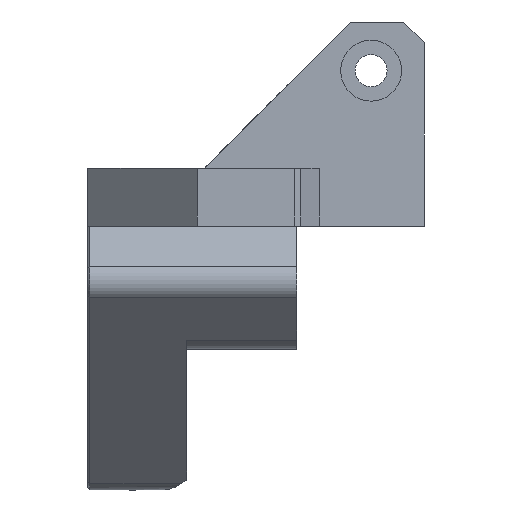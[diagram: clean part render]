
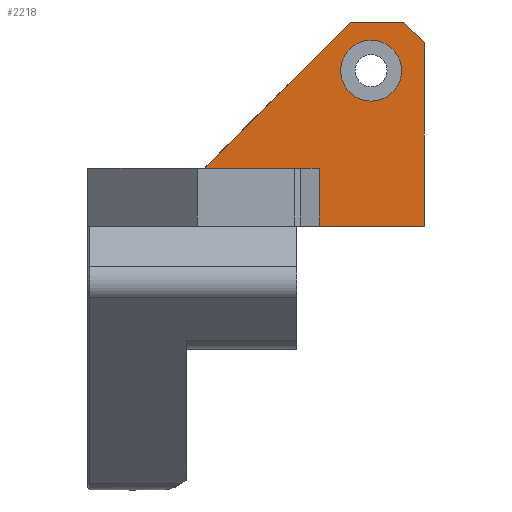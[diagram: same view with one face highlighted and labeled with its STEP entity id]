
A CAD part, left-side view. The second image highlights one B-rep face of the part: STEP entity #2218.
In plain terms, the highlighted planar face has unit normal (-1, 0, 0).
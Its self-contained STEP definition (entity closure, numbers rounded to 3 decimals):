
#79=FACE_BOUND('',#800,.T.);
#137=CIRCLE('',#2376,3.);
#255=LINE('',#4194,#445);
#268=LINE('',#4269,#458);
#276=LINE('',#4284,#466);
#283=LINE('',#4299,#473);
#285=LINE('',#4302,#475);
#287=LINE('',#4308,#477);
#288=LINE('',#4309,#478);
#289=LINE('',#4310,#479);
#290=LINE('',#4312,#480);
#291=LINE('',#4313,#481);
#445=VECTOR('',#2724,10.);
#458=VECTOR('',#2745,10.);
#466=VECTOR('',#2757,10.);
#473=VECTOR('',#2772,10.);
#475=VECTOR('',#2776,10.);
#477=VECTOR('',#2782,10.);
#478=VECTOR('',#2783,10.);
#479=VECTOR('',#2784,10.);
#480=VECTOR('',#2785,10.);
#481=VECTOR('',#2786,10.);
#569=PLANE('',#2375);
#660=FACE_OUTER_BOUND('',#799,.T.);
#799=EDGE_LOOP('',(#1884,#1885,#1886,#1887,#1888,#1889,#1890,#1891,#1892,
#1893));
#800=EDGE_LOOP('',(#1894));
#1082=VERTEX_POINT('',#4191);
#1083=VERTEX_POINT('',#4193);
#1097=VERTEX_POINT('',#4266);
#1098=VERTEX_POINT('',#4268);
#1102=VERTEX_POINT('',#4280);
#1103=VERTEX_POINT('',#4282);
#1106=VERTEX_POINT('',#4296);
#1107=VERTEX_POINT('',#4298);
#1109=VERTEX_POINT('',#4307);
#1110=VERTEX_POINT('',#4311);
#1111=VERTEX_POINT('',#4314);
#1355=EDGE_CURVE('',#1082,#1083,#255,.T.);
#1372=EDGE_CURVE('',#1098,#1097,#268,.T.);
#1380=EDGE_CURVE('',#1103,#1102,#276,.T.);
#1387=EDGE_CURVE('',#1106,#1107,#283,.T.);
#1389=EDGE_CURVE('',#1097,#1107,#285,.T.);
#1392=EDGE_CURVE('',#1106,#1109,#287,.F.);
#1393=EDGE_CURVE('',#1109,#1083,#288,.T.);
#1394=EDGE_CURVE('',#1102,#1082,#289,.T.);
#1395=EDGE_CURVE('',#1103,#1110,#290,.T.);
#1396=EDGE_CURVE('',#1110,#1098,#291,.T.);
#1397=EDGE_CURVE('',#1111,#1111,#137,.T.);
#1884=ORIENTED_EDGE('',*,*,#1387,.F.);
#1885=ORIENTED_EDGE('',*,*,#1392,.T.);
#1886=ORIENTED_EDGE('',*,*,#1393,.T.);
#1887=ORIENTED_EDGE('',*,*,#1355,.F.);
#1888=ORIENTED_EDGE('',*,*,#1394,.F.);
#1889=ORIENTED_EDGE('',*,*,#1380,.F.);
#1890=ORIENTED_EDGE('',*,*,#1395,.T.);
#1891=ORIENTED_EDGE('',*,*,#1396,.T.);
#1892=ORIENTED_EDGE('',*,*,#1372,.T.);
#1893=ORIENTED_EDGE('',*,*,#1389,.T.);
#1894=ORIENTED_EDGE('',*,*,#1397,.T.);
#2218=ADVANCED_FACE('',(#660,#79),#569,.T.);
#2375=AXIS2_PLACEMENT_3D('',#4306,#2780,#2781);
#2376=AXIS2_PLACEMENT_3D('',#4315,#2787,#2788);
#2724=DIRECTION('',(0.,1.,0.));
#2745=DIRECTION('',(0.,0.,1.));
#2757=DIRECTION('',(0.,1.,0.));
#2772=DIRECTION('',(0.,-0.707,-0.707));
#2776=DIRECTION('',(0.,0.,1.));
#2780=DIRECTION('center_axis',(-1.,0.,
0.));
#2781=DIRECTION('ref_axis',(0.,-1.,0.));
#2782=DIRECTION('',(0.,-1.,0.));
#2783=DIRECTION('',(0.,0.707,-0.707));
#2784=DIRECTION('',(0.,0.,1.));
#2785=DIRECTION('',(0.,-1.,0.));
#2786=DIRECTION('',(0.,-1.,0.));
#2787=DIRECTION('center_axis',(1.,0.,0.));
#2788=DIRECTION('ref_axis',(0.,-1.,0.));
#4191=CARTESIAN_POINT('',(7.216,29.373,29.18));
#4193=CARTESIAN_POINT('',(7.216,40.705,29.18));
#4194=CARTESIAN_POINT('',(7.216,35.451,29.18));
#4266=CARTESIAN_POINT('',(7.216,19.054,29.18));
#4268=CARTESIAN_POINT('',(7.216,19.054,23.48));
#4269=CARTESIAN_POINT('',(7.216,19.054,26.33));
#4280=CARTESIAN_POINT('',(7.216,29.373,23.48));
#4282=CARTESIAN_POINT('',(7.216,28.705,23.48));
#4284=CARTESIAN_POINT('',(7.216,28.705,23.48));
#4296=CARTESIAN_POINT('',(7.216,21.054,43.58));
#4298=CARTESIAN_POINT('',(7.216,19.054,41.58));
#4299=CARTESIAN_POINT('',(7.216,18.867,41.392));
#4302=CARTESIAN_POINT('',(7.216,19.054,29.18));
#4306=CARTESIAN_POINT('Origin',(7.216,28.705,29.18));
#4307=CARTESIAN_POINT('',(7.216,26.305,43.58));
#4308=CARTESIAN_POINT('',(7.216,26.292,43.58));
#4309=CARTESIAN_POINT('',(7.216,34.705,35.18));
#4310=CARTESIAN_POINT('',(7.216,29.373,26.33));
#4311=CARTESIAN_POINT('',(7.216,27.492,23.48));
#4312=CARTESIAN_POINT('',(7.216,28.098,23.48));
#4313=CARTESIAN_POINT('',(7.216,27.108,23.48));
#4314=CARTESIAN_POINT('',(7.216,27.279,38.789));
#4315=CARTESIAN_POINT('Origin',(7.216,24.279,38.789));
